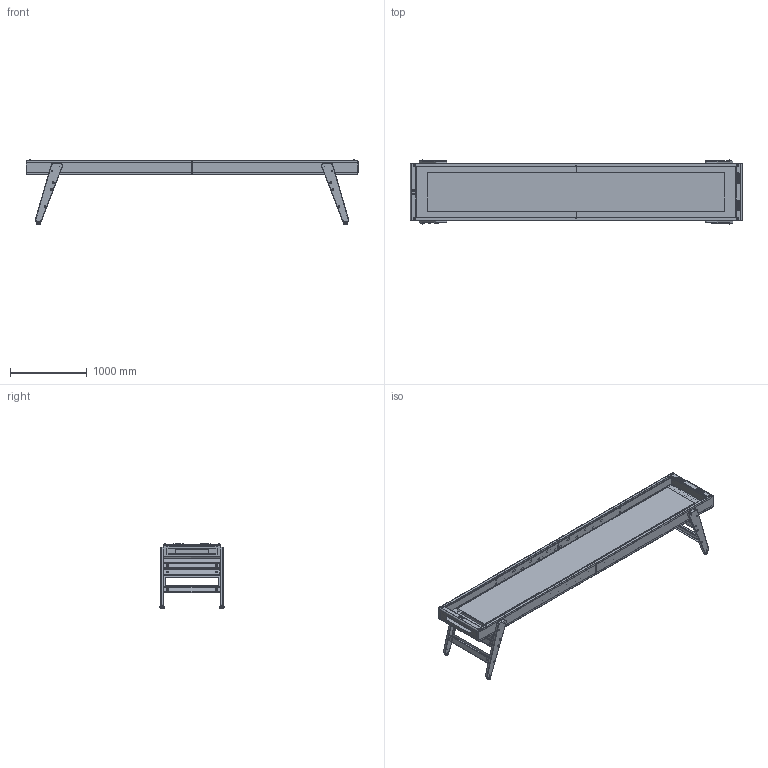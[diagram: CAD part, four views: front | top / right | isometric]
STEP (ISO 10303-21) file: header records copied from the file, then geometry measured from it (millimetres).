
FILE_DESCRIPTION (( 'STEP AP214' ), '1' );
FILE_NAME ('Track_14Ft.STEP', '2025-05-13T10:19:54', ( '' ), ( '' ), 'SwSTEP 2.0', 'SolidWorks 2020', '' );
FILE_SCHEMA (( 'AUTOMOTIVE_DESIGN' ));
Length unit declared in the file: millimetre
Products named in the file (44): Track_14Ft; conjunto_estructura_lateral_SHU_14_C.igs; conjunto_soporte_chapa_contagol.igs; tornillo_m4.igs; Symmetry of estructura_2_lateral_SHU_14.igs; ISO 4034 NUT M8 STEEL GRADE C HEXAGON HEAD.igs; NIVELADOR PETIT.igs; soporte_chapa_contagol.igs; frontal_3_estructura_SHU_9.igs; modulo_estructura_1_lateral_SHU_14.igs; FALDON MADERA_SHU.igs; lateral_1_SHU14.igs; conjunto_laterales_y_tubos_SHU_14.igs; PATA MADERA_SHU.igs; frontal_2_estructura_SHU_9.igs; conjunto_frontal_estructura_SHU_9.igs; conjunto_chapa_superficie_SHU_14_plana.igs; tornillo_eiffel_metalico.igs; estructura_2_lateral_SHU_14.igs; Track_14Ft.igs; pet_3_sh14ft.igs; ISO 7093-2 WASHER 8x24.0 STEEL GRADE C PLAIN LARGE SERIES.igs; conjunto_patas_madera_wood_SHU.igs; frontal_4_estructura_SHU_9.igs; lateral_2_SHU14.igs; M8x50_din7380.igs; conjunto_costillas_Shuffle14ft.igs; conj_estructura_lateral_SHU_14_C.igs; conjunto_chapa_juego_SHU14.igs; estructura_1_lateral_SHU_14.igs; tornillo_M8_soporte_cristal_rs#3.igs; conjunto_cuentagol_rs#4_new.igs; conjunto_frontal_estructura_SHU_9_2.igs; conjunto_pet_sh14ft.igs; frontal_estructura_SHU_9.igs; Symmetry of estructura_1_lateral_SHU_14.igs; pet_2.igs; chapa_superficie_SHU_14.igs; pet_1_sh14ft.igs; frontal_estructura_SHU_9_2.igs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
Assembly tree (104 placements, depth 8):
  Track_14Ft
    Track_14Ft.igs
      tornillo_M8_soporte_cristal_rs#3.igs  x24
      conjunto_patas_madera_wood_SHU.igs  x2
        NIVELADOR PETIT.igs
        PATA MADERA_SHU.igs
        chapa_patas_grande.igs
        FALDON MADERA_SHU.igs
        conjunto_M8_arandela_tuerca_2.igs
          M8x50_din7380.igs
          ISO 7093-2 WASHER 8x24.0 STEEL GRADE C PLAIN LARGE SERIES.igs  x2
          ISO 4034 NUT M8 STEEL GRADE C HEXAGON HEAD.igs
      conjunto_costillas_Shuffle14ft.igs
        conjunto_chapa_superficie_SHU_14_plana.igs
          conjunto_chapa_juego_SHU14.igs
            chapa_superficie_SHU_14.igs
      conjunto_pet_sh14ft.igs  x2
        pet_1_sh14ft.igs
        pet_2.igs
        pet_3_sh14ft.igs
      lateral_1_SHU14.igs
        conjunto_frontal_estructura_SHU_9_2.igs
          frontal_estructura_SHU_9_2.igs
          frontal_3_estructura_SHU_9.igs
          frontal_2_estructura_SHU_9.igs
          frontal_4_estructura_SHU_9.igs  x2
          tornillo_eiffel_metalico.igs  x6
        conjunto_laterales_y_tubos_SHU_14.igs
          tubo_2_lateral_SHU_9.igs
          conj_estructura_lateral_SHU_14_C.igs
            conjunto_estructura_lateral_SHU_14_C.igs
              modulo_estructura_1_lateral_SHU_14.igs
                estructura_1_lateral_SHU_14.igs
                estructura_2_lateral_SHU_14.igs
              Symmetry of modulo_estructura_1_lateral_SHU_14.igs
                Symmetry of estructura_1_lateral_SHU_14.igs
                Symmetry of estructura_2_lateral_SHU_14.igs
      lateral_2_SHU14.igs
        conjunto_laterales_y_tubos_SHU_14.igs
          tubo_2_lateral_SHU_9.igs
          conj_estructura_lateral_SHU_14_C.igs
            conjunto_estructura_lateral_SHU_14_C.igs
              modulo_estructura_1_lateral_SHU_14.igs
                estructura_1_lateral_SHU_14.igs
                estructura_2_lateral_SHU_14.igs
              Symmetry of modulo_estructura_1_lateral_SHU_14.igs
                Symmetry of estructura_1_lateral_SHU_14.igs
                Symmetry of estructura_2_lateral_SHU_14.igs
        conjunto_frontal_estructura_SHU_9.igs
          frontal_3_estructura_SHU_9.igs
          frontal_2_estructura_SHU_9.igs
          tornillo_eiffel_metalico.igs  x6
          frontal_estructura_SHU_9.igs
          tornillo_m4.igs  x4
          conjunto_soporte_chapa_contagol.igs  x2
            conjunto_cuentagol_rs#4_new.igs
            soporte_chapa_contagol.igs
Bounding box: 4318 x 833.4 x 838.14 mm (x, y, z)
Volume: 70848121 mm3; surface area: 27450482.6 mm2
Topology: 181 solids, 203 shells, 5916 faces, 14520 edges, 9080 vertices
Faces by surface type: plane 3164, bspline 2752
Entity records: 89246 total; most frequent: CARTESIAN_POINT 51256, ORIENTED_EDGE 10580, EDGE_CURVE 5330, B_SPLINE_CURVE_WITH_KNOTS 4520, VERTEX_POINT 3302, DIRECTION 2754, EDGE_LOOP 2392, FACE_OUTER_BOUND 2054
